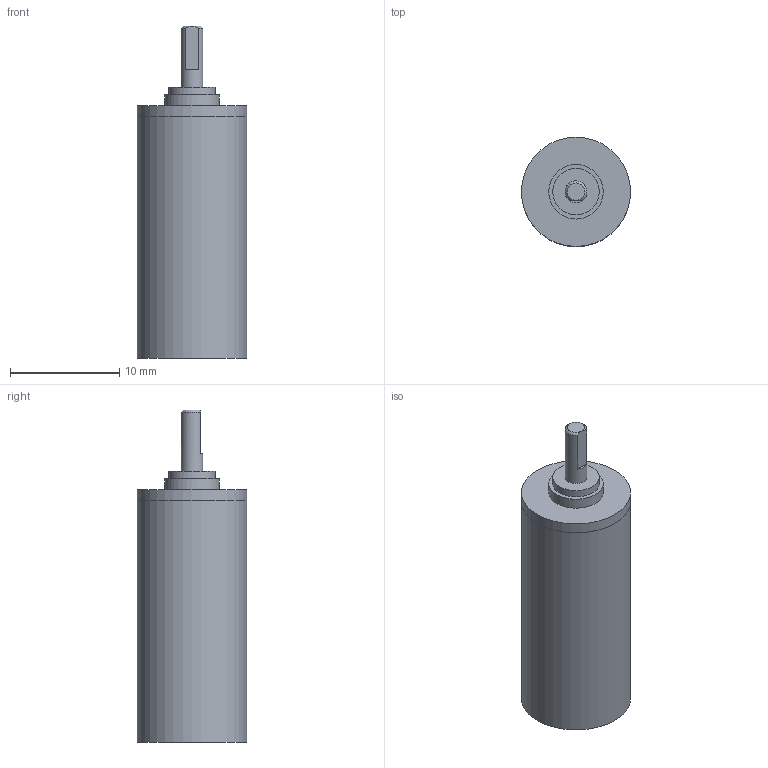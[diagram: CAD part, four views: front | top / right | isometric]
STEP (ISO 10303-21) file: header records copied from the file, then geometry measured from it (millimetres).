
FILE_DESCRIPTION(/* description */ (''),/* implementation_level */ '2;1');
FILE_NAME(/* name */ '10-1K_5.stp',/* time_stamp */ '2016-08-24T08:33:05+02:00',/* author */ ('DR. FRITZ FAULHABER GmbH & Co. KG'),/* organization */ ('DR. FRITZ FAULHABER GmbH & Co. KG'),/* preprocessor_version */ 'ST-DEVELOPER v16',/* originating_system */ 'SIEMENS PLM Software NX 10.0',/* authorisation */ '');
FILE_SCHEMA (('AUTOMOTIVE_DESIGN { 1 0 10303 214 3 1 1 1 }'));
Length unit declared in the file: millimetre
Products named in the file (1): H00000417_A
Bounding box: 10 x 10 x 30.4 mm (x, y, z)
Volume: 1773 mm3; surface area: 1012.8 mm2
Topology: 1 solids, 1 shells, 24 faces, 42 edges, 28 vertices
Faces by surface type: plane 12, cylinder 10, cone 2
Full cylindrical faces by diameter (mm): 2 x1, 3.12 x1, 3.32 x1, 4.25 x1, 4.959 x1, 5 x1, 6 x1, 9.99 x1, 10 x2
Entity records: 532 total; most frequent: DIRECTION 97, CARTESIAN_POINT 91, ORIENTED_EDGE 54, AXIS2_PLACEMENT_3D 47, EDGE_LOOP 43, FACE_BOUND 38, EDGE_CURVE 27, ADVANCED_FACE 24
